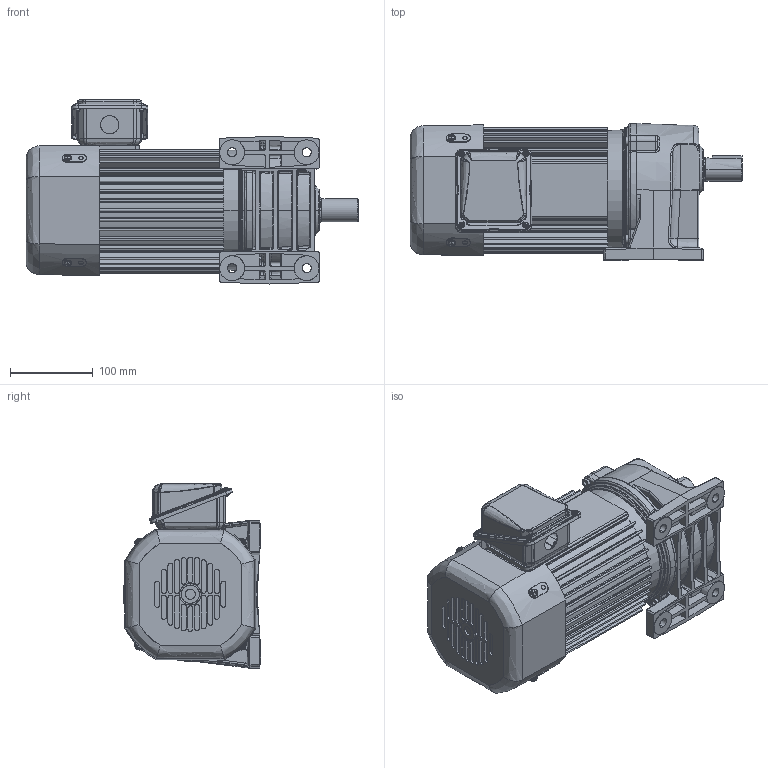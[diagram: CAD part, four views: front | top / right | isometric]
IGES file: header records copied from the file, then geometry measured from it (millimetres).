
Start section: SolidWorks IGES file using analytic representation for surfaces
Global section: file name: \\100.100.100.8\1_共有作業フォルダ\1-5_３Ｄデータ\solidworks\personal-folder\H.Nagayama\SGP1外形075~370\P1(3D)_075~370\igs\TML2-08E-(5~25).IGS; native system: SolidWorks 2018; preprocessor: SolidWorks 2018; author: sigma-giken; date: 200806.161741; units: millimetre
Bounding box: 401 x 166 x 222.3 mm (x, y, z)
Surface area: 550531.7 mm2 (no closed solid volume)
Topology: 0 solids, 0 shells, 1730 faces, 20624 edges, 20583 vertices
Faces by surface type: bspline 893, revolution 837
